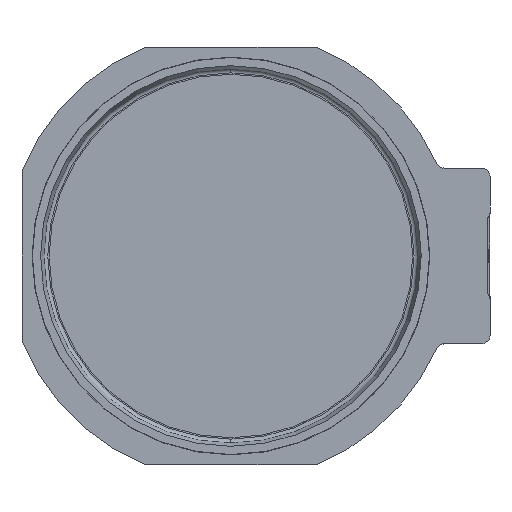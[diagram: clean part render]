
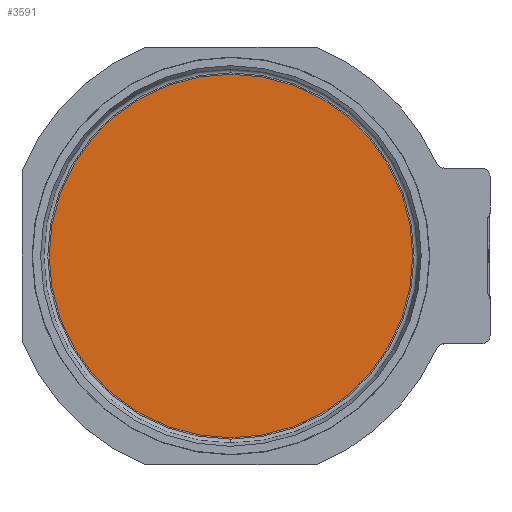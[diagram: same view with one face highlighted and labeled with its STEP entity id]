
A CAD part, top view. The second image highlights one B-rep face of the part: STEP entity #3591.
In plain terms, the highlighted planar face has unit normal (0, 0, 1) as drawn and (0, -1, 0) by its records, which use the part's own axes.
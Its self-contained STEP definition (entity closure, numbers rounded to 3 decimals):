
#435 = CARTESIAN_POINT ( 'NONE',  ( 0., -0.105, 4.35 ) ) ;
#673 = CIRCLE ( 'NONE', #3242, 4.35 ) ;
#809 = DIRECTION ( 'NONE',  ( 0., 0., 1. ) ) ;
#1125 = CARTESIAN_POINT ( 'NONE',  ( 0., -0.105, 0. ) ) ;
#1283 = EDGE_LOOP ( 'NONE', ( #4196 ) ) ;
#1350 = AXIS2_PLACEMENT_3D ( 'NONE', #1125, #1852, #809 ) ;
#1465 = DIRECTION ( 'NONE',  ( 0., 1., 0. ) ) ;
#1852 = DIRECTION ( 'NONE',  ( 0., 1., 0. ) ) ;
#2297 = VERTEX_POINT ( 'NONE', #435 ) ;
#2426 = FACE_OUTER_BOUND ( 'NONE', #1283, .T. ) ;
#2468 = DIRECTION ( 'NONE',  ( 0., 0., 1. ) ) ;
#2484 = PLANE ( 'NONE',  #1350 ) ;
#3242 = AXIS2_PLACEMENT_3D ( 'NONE', #4079, #1465, #2468 ) ;
#3591 = ADVANCED_FACE ( 'NONE', ( #2426 ), #2484, .F. ) ;
#3607 = EDGE_CURVE ( 'NONE', #2297, #2297, #673, .T. ) ;
#4079 = CARTESIAN_POINT ( 'NONE',  ( 0., -0.105, 0. ) ) ;
#4196 = ORIENTED_EDGE ( 'NONE', *, *, #3607, .F. ) ;
